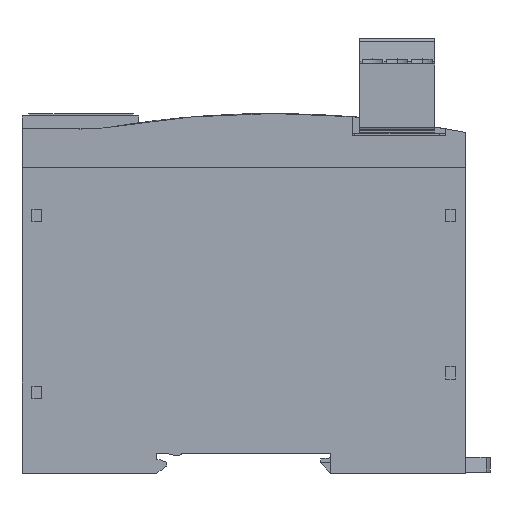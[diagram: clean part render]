
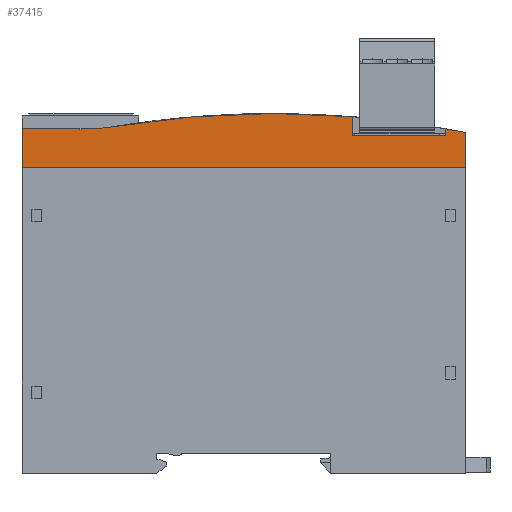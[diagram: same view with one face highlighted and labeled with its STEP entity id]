
A CAD part, left-side view. The second image highlights one B-rep face of the part: STEP entity #37415.
In plain terms, the highlighted planar face has unit normal (-1, 0, 0).
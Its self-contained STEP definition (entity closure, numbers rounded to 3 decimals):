
#815 = LINE ( 'NONE', #53508, #53375 ) ;
#1271 = VERTEX_POINT ( 'NONE', #56187 ) ;
#1357 = CARTESIAN_POINT ( 'NONE',  ( 0., 72.202, 70.225 ) ) ;
#1839 = VERTEX_POINT ( 'NONE', #11557 ) ;
#1856 = DIRECTION ( 'NONE',  ( 0., 1., 0. ) ) ;
#2254 = CARTESIAN_POINT ( 'NONE',  ( 0., 78., 69.85 ) ) ;
#2310 = ORIENTED_EDGE ( 'NONE', *, *, #23582, .T. ) ;
#2380 = CARTESIAN_POINT ( 'NONE',  ( 0., 78.15, 69.7 ) ) ;
#2473 = DIRECTION ( 'NONE',  ( 0., 0., 1. ) ) ;
#2595 = VERTEX_POINT ( 'NONE', #12154 ) ;
#2664 = DIRECTION ( 'NONE',  ( 0., 0., 1. ) ) ;
#4742 = VECTOR ( 'NONE', #39561, 1000. ) ;
#5050 = B_SPLINE_CURVE_WITH_KNOTS ( 'NONE', 3,
 ( #19370, #13404, #7382, #1357 ),
 .UNSPECIFIED., .F., .F.,
 ( 4, 4 ),
 ( 0.324, 1. ),
 .UNSPECIFIED. ) ;
#5131 = AXIS2_PLACEMENT_3D ( 'NONE', #14681, #8670, #2664 ) ;
#6259 = CARTESIAN_POINT ( 'NONE',  ( 0., 39., 73.002 ) ) ;
#6326 = CARTESIAN_POINT ( 'NONE',  ( 0., 23., 68.5 ) ) ;
#6567 = VERTEX_POINT ( 'NONE', #31277 ) ;
#6870 = B_SPLINE_CURVE_WITH_KNOTS ( 'NONE', 3,
 ( #43929, #37886, #31870, #25878 ),
 .UNSPECIFIED., .F., .F.,
 ( 4, 4 ),
 ( 0., 1. ),
 .UNSPECIFIED. ) ;
#7382 = CARTESIAN_POINT ( 'NONE',  ( 0., 61.175, 72.081 ) ) ;
#7776 = EDGE_CURVE ( 'NONE', #41069, #13466, #55578, .T. ) ;
#7881 = CARTESIAN_POINT ( 'NONE',  ( 0., 45., 70. ) ) ;
#8265 = LINE ( 'NONE', #2254, #19684 ) ;
#8399 = LINE ( 'NONE', #2380, #42923 ) ;
#8490 = CARTESIAN_POINT ( 'NONE',  ( 0., 78.3, 69.85 ) ) ;
#8670 = DIRECTION ( 'NONE',  ( 1., 0., 0. ) ) ;
#9535 = VECTOR ( 'NONE', #19494, 1000. ) ;
#9543 = ORIENTED_EDGE ( 'NONE', *, *, #35997, .T. ) ;
#10679 = DIRECTION ( 'NONE',  ( 0., 0., -1. ) ) ;
#11184 = EDGE_CURVE ( 'NONE', #1839, #2595, #14496, .T. ) ;
#11557 = CARTESIAN_POINT ( 'NONE',  ( 0., 78.3, 69.7 ) ) ;
#11907 = FACE_OUTER_BOUND ( 'NONE', #56085, .T. ) ;
#12154 = CARTESIAN_POINT ( 'NONE',  ( 0., 78.3, 70. ) ) ;
#12318 = CARTESIAN_POINT ( 'NONE',  ( 0., 33.676, 73.003 ) ) ;
#13190 = VERTEX_POINT ( 'NONE', #52429 ) ;
#13371 = EDGE_CURVE ( 'NONE', #44636, #41069, #6870, .T. ) ;
#13404 = CARTESIAN_POINT ( 'NONE',  ( 0., 50.108, 73.008 ) ) ;
#13466 = VERTEX_POINT ( 'NONE', #15619 ) ;
#13718 = CARTESIAN_POINT ( 'NONE',  ( 0., 23., 72.359 ) ) ;
#13889 = LINE ( 'NONE', #7881, #17723 ) ;
#14496 = LINE ( 'NONE', #8490, #31247 ) ;
#14681 = CARTESIAN_POINT ( 'NONE',  ( 0., 74.892, 86.2 ) ) ;
#15619 = CARTESIAN_POINT ( 'NONE',  ( 0., 4., 68.5 ) ) ;
#15660 = DIRECTION ( 'NONE',  ( 0., 1., 0. ) ) ;
#16417 = CARTESIAN_POINT ( 'NONE',  ( 0., 0., 69.161 ) ) ;
#16477 = EDGE_CURVE ( 'NONE', #27032, #35798, #39127, .T. ) ;
#16710 = DIRECTION ( 'NONE',  ( -1., 0., 0. ) ) ;
#16882 = VECTOR ( 'NONE', #35294, 1000. ) ;
#16946 = LINE ( 'NONE', #45560, #4742 ) ;
#17723 = VECTOR ( 'NONE', #1856, 1000. ) ;
#18288 = CARTESIAN_POINT ( 'NONE',  ( 0., 28.343, 72.788 ) ) ;
#19370 = CARTESIAN_POINT ( 'NONE',  ( 0., 39., 73.002 ) ) ;
#19494 = DIRECTION ( 'NONE',  ( 0., 0., -1. ) ) ;
#19684 = VECTOR ( 'NONE', #54922, 1000. ) ;
#20470 = ORIENTED_EDGE ( 'NONE', *, *, #51772, .T. ) ;
#20986 = AXIS2_PLACEMENT_3D ( 'NONE', #22681, #16710, #10679 ) ;
#21684 = CARTESIAN_POINT ( 'NONE',  ( 0., 45., 70. ) ) ;
#21982 = VERTEX_POINT ( 'NONE', #6326 ) ;
#22681 = CARTESIAN_POINT ( 'NONE',  ( 0., 90., 73.066 ) ) ;
#23040 = EDGE_CURVE ( 'NONE', #13190, #6567, #35192, .T. ) ;
#23044 = ORIENTED_EDGE ( 'NONE', *, *, #13371, .T. ) ;
#23582 = EDGE_CURVE ( 'NONE', #2595, #27032, #13889, .T. ) ;
#23977 = CARTESIAN_POINT ( 'NONE',  ( 0., 78., 70. ) ) ;
#24705 = VERTEX_POINT ( 'NONE', #23977 ) ;
#25525 = CARTESIAN_POINT ( 'NONE',  ( 0., 4., 67.558 ) ) ;
#25532 = CARTESIAN_POINT ( 'NONE',  ( 0., 23., 72.359 ) ) ;
#25538 = EDGE_CURVE ( 'NONE', #30453, #1271, #27350, .T. ) ;
#25878 = CARTESIAN_POINT ( 'NONE',  ( 0., 4., 69.914 ) ) ;
#26141 = CARTESIAN_POINT ( 'NONE',  ( 0., 90., 70. ) ) ;
#27032 = VERTEX_POINT ( 'NONE', #26141 ) ;
#27073 = DIRECTION ( 'NONE',  ( 0., 0., -1. ) ) ;
#27263 = EDGE_CURVE ( 'NONE', #1271, #13190, #5050, .T. ) ;
#27350 = B_SPLINE_CURVE_WITH_KNOTS ( 'NONE', 3,
 ( #13718, #18288, #12318, #6259 ),
 .UNSPECIFIED., .F., .F.,
 ( 4, 4 ),
 ( 0., 0.324 ),
 .UNSPECIFIED. ) ;
#27649 = LINE ( 'NONE', #21684, #47411 ) ;
#29969 = VECTOR ( 'NONE', #31825, 1000. ) ;
#30058 = CARTESIAN_POINT ( 'NONE',  ( 0., 4., 69.914 ) ) ;
#30453 = VERTEX_POINT ( 'NONE', #25532 ) ;
#31247 = VECTOR ( 'NONE', #2473, 1000. ) ;
#31277 = CARTESIAN_POINT ( 'NONE',  ( 0., 74.892, 70. ) ) ;
#31462 = ORIENTED_EDGE ( 'NONE', *, *, #40381, .T. ) ;
#31825 = DIRECTION ( 'NONE',  ( 0., -1., 0. ) ) ;
#31870 = CARTESIAN_POINT ( 'NONE',  ( 0., 2.664, 69.676 ) ) ;
#32537 = VERTEX_POINT ( 'NONE', #44240 ) ;
#33081 = CARTESIAN_POINT ( 'NONE',  ( 0., 90., 67.558 ) ) ;
#34034 = VECTOR ( 'NONE', #27073, 1000. ) ;
#34296 = EDGE_CURVE ( 'NONE', #13466, #21982, #815, .T. ) ;
#35052 = ORIENTED_EDGE ( 'NONE', *, *, #23040, .T. ) ;
#35192 = CIRCLE ( 'NONE', #5131, 16.2 ) ;
#35294 = DIRECTION ( 'NONE',  ( 0., 0., 1. ) ) ;
#35359 = CARTESIAN_POINT ( 'NONE',  ( 0., 78., 69.7 ) ) ;
#35779 = ORIENTED_EDGE ( 'NONE', *, *, #11184, .T. ) ;
#35798 = VERTEX_POINT ( 'NONE', #41755 ) ;
#35997 = EDGE_CURVE ( 'NONE', #35798, #32537, #43885, .T. ) ;
#36732 = ORIENTED_EDGE ( 'NONE', *, *, #25538, .T. ) ;
#37161 = ORIENTED_EDGE ( 'NONE', *, *, #34296, .T. ) ;
#37415 = ADVANCED_FACE ( 'NONE', ( #11907 ), #46742, .T. ) ;
#37718 = ORIENTED_EDGE ( 'NONE', *, *, #38256, .T. ) ;
#37841 = CARTESIAN_POINT ( 'NONE',  ( 0., 45., 62.05 ) ) ;
#37886 = CARTESIAN_POINT ( 'NONE',  ( 0., 1.331, 69.425 ) ) ;
#37956 = ORIENTED_EDGE ( 'NONE', *, *, #39383, .T. ) ;
#38256 = EDGE_CURVE ( 'NONE', #21982, #30453, #16946, .T. ) ;
#39127 = LINE ( 'NONE', #33081, #34034 ) ;
#39383 = EDGE_CURVE ( 'NONE', #24705, #43712, #8265, .T. ) ;
#39561 = DIRECTION ( 'NONE',  ( 0., 0., 1. ) ) ;
#40381 = EDGE_CURVE ( 'NONE', #6567, #24705, #27649, .T. ) ;
#41069 = VERTEX_POINT ( 'NONE', #30058 ) ;
#41290 = CARTESIAN_POINT ( 'NONE',  ( 0., 0., 67.558 ) ) ;
#41755 = CARTESIAN_POINT ( 'NONE',  ( 0., 90., 62.05 ) ) ;
#42923 = VECTOR ( 'NONE', #55044, 1000. ) ;
#43712 = VERTEX_POINT ( 'NONE', #35359 ) ;
#43885 = LINE ( 'NONE', #37841, #29969 ) ;
#43929 = CARTESIAN_POINT ( 'NONE',  ( 0., 0., 69.161 ) ) ;
#44240 = CARTESIAN_POINT ( 'NONE',  ( 0., 0., 62.05 ) ) ;
#44422 = ORIENTED_EDGE ( 'NONE', *, *, #7776, .T. ) ;
#44636 = VERTEX_POINT ( 'NONE', #16417 ) ;
#45560 = CARTESIAN_POINT ( 'NONE',  ( 0., 23., 69.429 ) ) ;
#46742 = PLANE ( 'NONE',  #20986 ) ;
#47316 = LINE ( 'NONE', #41290, #16882 ) ;
#47411 = VECTOR ( 'NONE', #15660, 1000. ) ;
#47489 = DIRECTION ( 'NONE',  ( 0., 1., 0. ) ) ;
#50732 = ORIENTED_EDGE ( 'NONE', *, *, #27263, .T. ) ;
#51388 = ORIENTED_EDGE ( 'NONE', *, *, #57363, .F. ) ;
#51772 = EDGE_CURVE ( 'NONE', #32537, #44636, #47316, .T. ) ;
#52429 = CARTESIAN_POINT ( 'NONE',  ( 0., 72.202, 70.225 ) ) ;
#52987 = ORIENTED_EDGE ( 'NONE', *, *, #16477, .T. ) ;
#53375 = VECTOR ( 'NONE', #47489, 1000. ) ;
#53508 = CARTESIAN_POINT ( 'NONE',  ( 0., 13.5, 68.5 ) ) ;
#54922 = DIRECTION ( 'NONE',  ( 0., 0., -1. ) ) ;
#55044 = DIRECTION ( 'NONE',  ( 0., -1., 0. ) ) ;
#55578 = LINE ( 'NONE', #25525, #9535 ) ;
#56085 = EDGE_LOOP ( 'NONE', ( #35779, #2310, #52987, #9543, #20470, #23044, #44422, #37161, #37718, #36732, #50732, #35052, #31462, #37956, #51388 ) ) ;
#56187 = CARTESIAN_POINT ( 'NONE',  ( 0., 39., 73.002 ) ) ;
#57363 = EDGE_CURVE ( 'NONE', #1839, #43712, #8399, .T. ) ;
